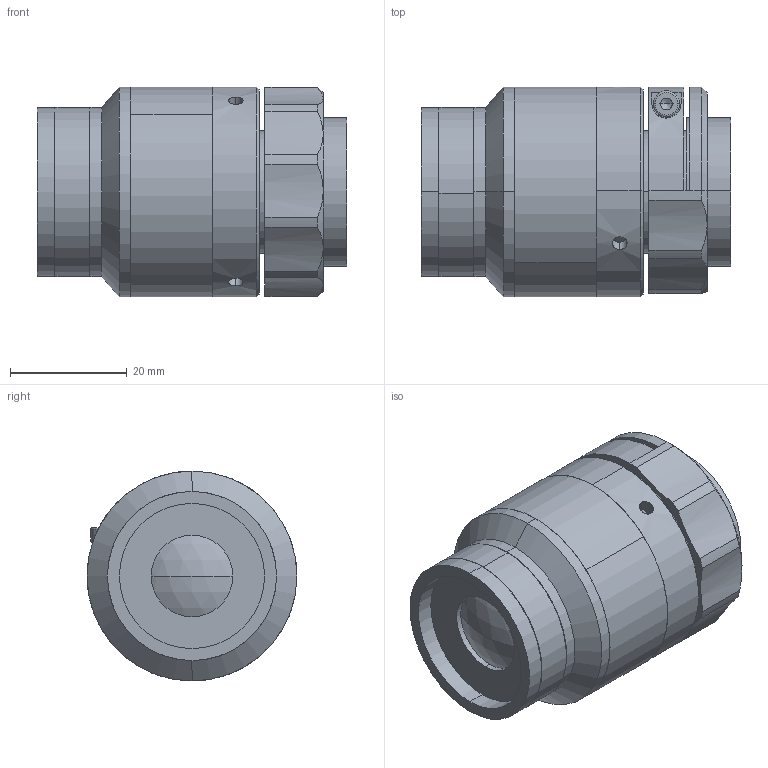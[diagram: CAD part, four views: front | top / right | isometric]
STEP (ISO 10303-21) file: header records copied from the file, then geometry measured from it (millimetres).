
FILE_DESCRIPTION (( 'STEP AP203' ), '1' );
FILE_NAME ('XF-MH025X195.STEP', '2020-08-24T07:06:49', ( 'canrill-02' ), ( '' ), 'SwSTEP 2.0', 'SolidWorks 2014', '' );
FILE_SCHEMA (( 'CONFIG_CONTROL_DESIGN' ));
Length unit declared in the file: millimetre
Products named in the file (1): XF-MH025X195
Bounding box: 53.02 x 36 x 36 mm (x, y, z)
Surface area: 11825.7 mm2 (no closed solid volume)
Topology: 0 solids, 11 shells, 99 faces, 262 edges, 176 vertices
Faces by surface type: cylinder 47, plane 33, cone 15, sphere 2, torus 2
Entity records: 3444 total; most frequent: CARTESIAN_POINT 857, DIRECTION 575, ORIENTED_EDGE 446, EDGE_CURVE 260, AXIS2_PLACEMENT_3D 238, VERTEX_POINT 176, CIRCLE 138, EDGE_LOOP 122
